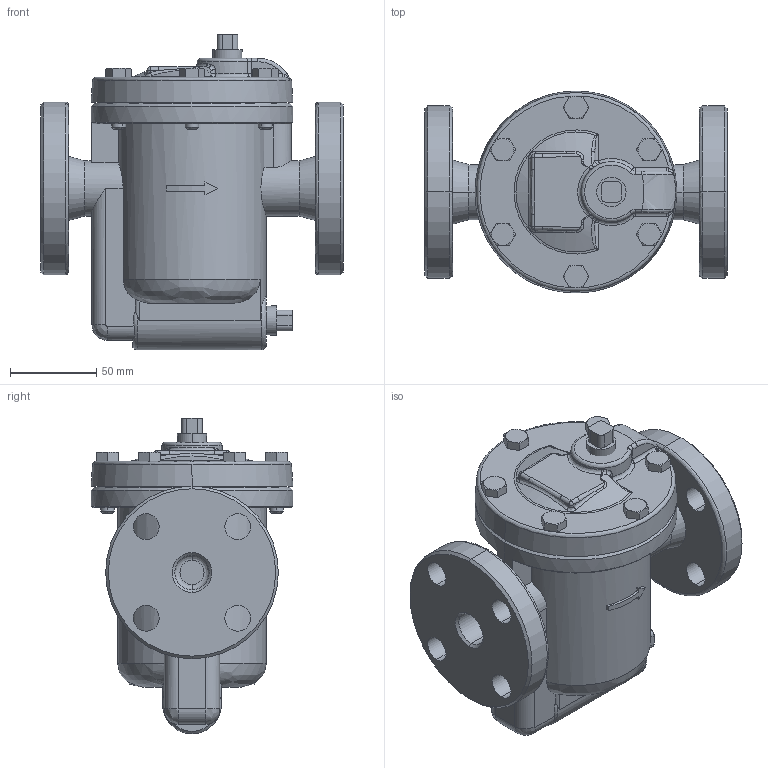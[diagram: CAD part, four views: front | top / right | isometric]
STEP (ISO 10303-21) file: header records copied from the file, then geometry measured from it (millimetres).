
FILE_DESCRIPTION( (''), '2;1');
FILE_NAME ('PC1027.940.1202-05-08 rev00 TB-20F 20A_12331.stp','2025-08-01T10:00:31',(''),(''),'spGate 20.6.3 (****-****-****-****)','','');
FILE_SCHEMA (('AUTOMOTIVE_DESIGN'));
Length unit declared in the file: millimetre
Products named in the file (5): Assembly; TB-20 ふた; CP_''_JIS B 1180 呼び径六角ボルト''_17166; TB-20プラグ3_8(3D）; TB-20F 20A 本体
Assembly tree (10 placements, depth 2):
  Assembly
    TB-20 ふた
    CP_''_JIS B 1180 呼び径六角ボルト''_17166  x6
    TB-20プラグ3_8(3D）  x2
    TB-20F 20A 本体
Bounding box: 175 x 117 x 182.9 mm (x, y, z)
Volume: 1256489.1 mm3; surface area: 153646.6 mm2
Topology: 10 solids, 10 shells, 397 faces, 925 edges, 565 vertices
Faces by surface type: bspline 155, plane 129, cylinder 106, sphere 7
Entity records: 15585 total; most frequent: CARTESIAN_POINT 4701, ORIENTED_EDGE 1278, DIRECTION 1071, COLOUR_RGB 907, PRESENTATION_STYLE_ASSIGNMENT 907, STYLED_ITEM 907, EDGE_CURVE 639, DRAUGHTING_PRE_DEFINED_CURVE_FONT 639
